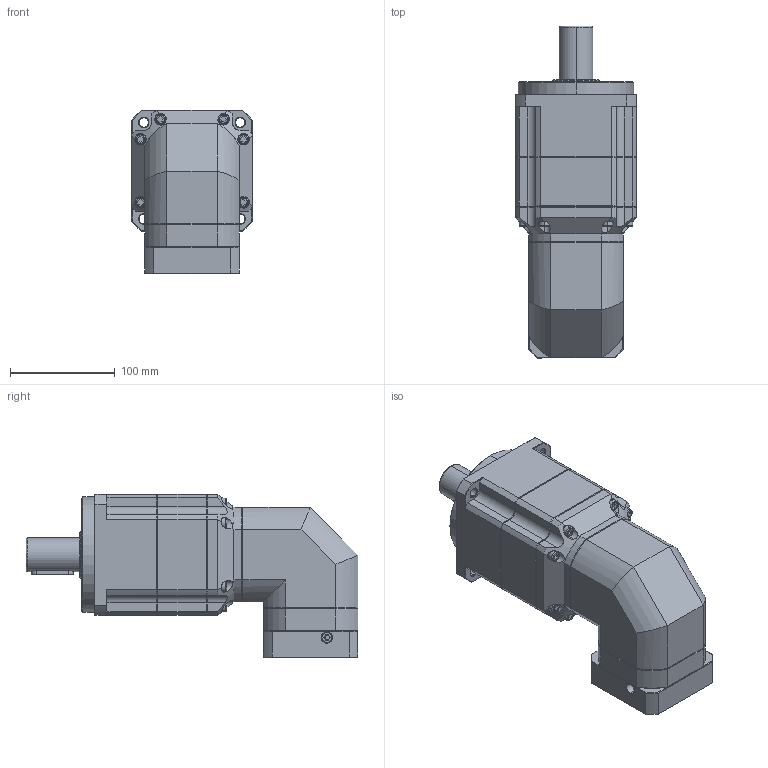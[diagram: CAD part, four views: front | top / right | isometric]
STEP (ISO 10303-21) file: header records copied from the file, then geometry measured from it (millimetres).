
FILE_DESCRIPTION (( 'STEP AP214' ), '1' );
FILE_NAME ('ZPBR115-D32-L3-P1-19-70-90-M5.step', '2024-06-29T08:09:33', ( 'Windows 蚚誧' ), ( 'Organization' ), 'SwSTEP 2.0', 'SolidWorks 2016', '' );
FILE_SCHEMA (( 'AUTOMOTIVE_DESIGN' ));
Length unit declared in the file: millimetre
Products named in the file (1): ZPBR115-D32-L3-P1-19-70-90-M5
Bounding box: 115 x 316 x 155.5 mm (x, y, z)
Surface area: 171826.6 mm2 (no closed solid volume)
Topology: 0 solids, 3 shells, 1856 faces, 4933 edges, 3178 vertices
Faces by surface type: plane 1075, bspline 397, cylinder 204, cone 180
Full cylindrical faces by diameter (mm): 10.2 x1
Entity records: 100992 total; most frequent: CARTESIAN_POINT 50560, ORIENTED_EDGE 9838, DIRECTION 7345, EDGE_CURVE 4931, LINE 3285, VECTOR 3285, VERTEX_POINT 3177, AXIS2_PLACEMENT_3D 2030
